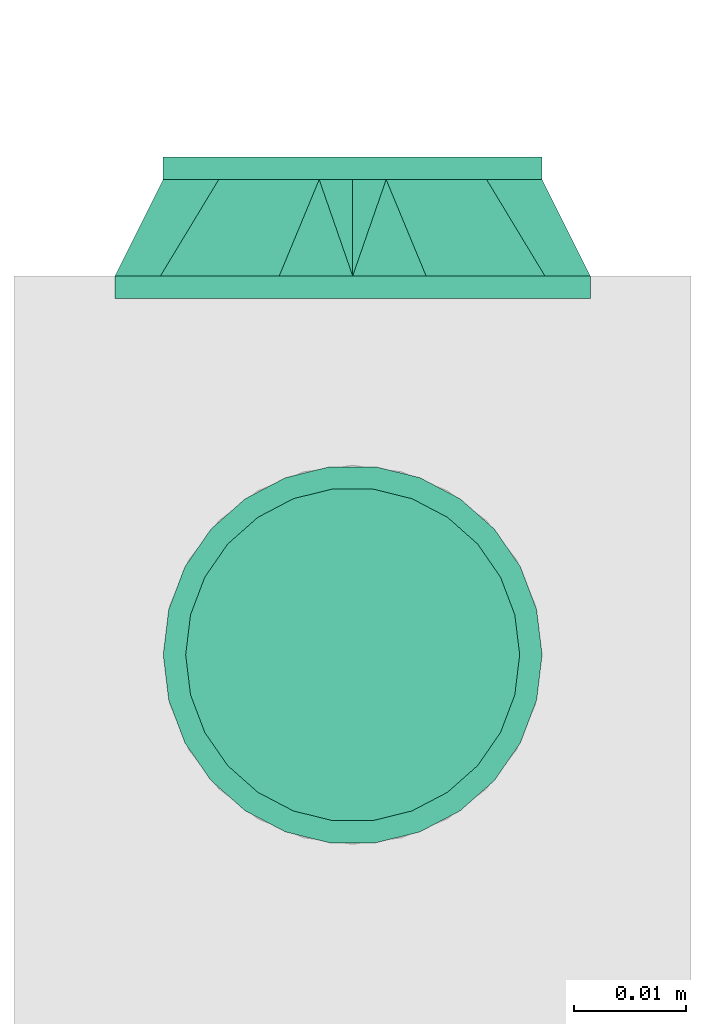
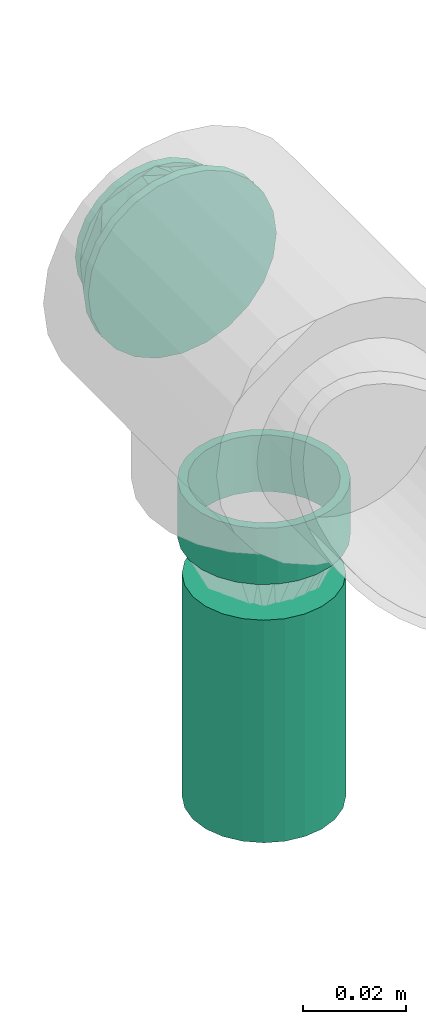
# One storey, part 10 of 17: 1 flow fitting, 1 flow segment, 1 flow terminal.
"""IFC2X3 building model written with IfcOpenShell, lengths in millimetres."""

from ifc_helpers import new_model, entity, si_unit, converted_unit, derived_unit, direction, frame, origin_with_axes, origin_2d_with_axis, place, context, subcontext, project, spatial, hollow_circle, extrude, open_shell, surface_model, source, transform, mapped, type_object, element, save


model = new_model("IFC2X3")

# Units and contexts
model_context = context("Model", 3, precision=0.01, world=frame((0.0, 4.29681676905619e-09, 0.0)), true_north=direction((4.01073788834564e-13, 1.0)))
plan_context = context("Plan", 3, precision=0.01, world=frame((0.0, 4.29681676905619e-09, 0.0)), true_north=direction((4.01073788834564e-13, 1.0)))
body_context = subcontext(model_context, "Body", "Model", "MODEL_VIEW")
ifc_project = project(units=[converted_unit("PLANEANGLEUNIT", "DEGREE", entity("IfcPositiveLengthMeasure", 0.0174532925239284), si_unit("PLANEANGLEUNIT", "RADIAN"), dimensions=[0, 0, 0, 0, 0, 0, 0]), si_unit("AREAUNIT", "SQUARE_METRE"), si_unit("LENGTHUNIT", "METRE", prefix="MILLI"), si_unit("MASSUNIT", "GRAM", prefix="KILO"), si_unit("POWERUNIT", "WATT"), si_unit("PRESSUREUNIT", "PASCAL"), si_unit("FORCEUNIT", "NEWTON", prefix="KILO"), si_unit("ELECTRICVOLTAGEUNIT", "VOLT"), si_unit("ELECTRICCURRENTUNIT", "AMPERE"), si_unit("THERMODYNAMICTEMPERATUREUNIT", "DEGREE_CELSIUS"), si_unit("TIMEUNIT", "SECOND"), si_unit("VOLUMEUNIT", "CUBIC_METRE"), derived_unit("LINEARVELOCITYUNIT", [(si_unit("LENGTHUNIT", "METRE"), 1), (si_unit("TIMEUNIT", "SECOND"), -1)]), derived_unit("VOLUMETRICFLOWRATEUNIT", [(si_unit("VOLUMEUNIT", "CUBIC_METRE"), 1), (si_unit("TIMEUNIT", "SECOND"), -1)]), derived_unit("THERMALTRANSMITTANCEUNIT", [(si_unit("POWERUNIT", "WATT"), 1), (si_unit("THERMODYNAMICTEMPERATUREUNIT", "KELVIN"), -1), (si_unit("AREAUNIT", "SQUARE_METRE"), -1)]), derived_unit("SOUNDPRESSUREUNIT", [(si_unit("PRESSUREUNIT", "PASCAL"), 1)])], contexts=[model_context, plan_context])

# Site, building, storey
site_placement = place(None, frame((0.0, -4.29681676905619e-09, 0.0), z_axis=(0.0, 0.0, 1.0), x_axis=(1.0, 0.0, 0.0)))
site = spatial("IfcSite", under=ifc_project, at=site_placement, Name="ENGM", CompositionType="ELEMENT")
building_placement = place(site_placement, frame((0.0, 4.29681676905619e-09, 0.0), z_axis=(0.0, 0.0, 1.0), x_axis=(1.0, 0.0, 0.0)))
building = spatial("IfcBuilding", under=site, at=building_placement, Name="TH", CompositionType="ELEMENT")
storey_placement = place(building_placement, frame((0.0, 0.0, 205200.0), z_axis=(0.0, 0.0, 1.0), x_axis=(1.0, 0.0, 0.0)))
storey = spatial("IfcBuildingStorey", under=building, at=storey_placement, Name="Nivå D + 1,2 m", CompositionType="ELEMENT", Elevation=205200.0)

# Flow fitting
pipe_fitting_type = type_object("IfcPipeFittingType", Name="magi_pipe_fe_reducer_centric_short_NOR", PredefinedType="TRANSITION")
shared_shape_1 = source(origin_with_axes(), body_context, "Body", "SurfaceModel", [
    surface_model("IfcShellBasedSurfaceModel", [(10.6, 4.37404, -16.32415), (10.6, 8.45, -14.63583), (10.6, 11.9501, -11.9501), (10.6, -8.45, -14.63583), (10.6, 16.32415, -4.37404), (10.6, 16.32415, 4.37404), (10.6, 14.63583, -8.45), (10.6, 0.0, -16.9), (10.6, -4.37404, -16.32415), (10.6, -11.9501, -11.9501), (10.6, -16.32415, -4.37404), (10.6, -14.63583, -8.45), (10.6, -16.32415, 4.37404), (10.6, 16.9, 0.0), (10.6, 14.63583, 8.45), (10.6, 11.9501, 11.9501), (10.6, 4.37404, 16.32415), (10.6, 8.45, 14.63583), (10.6, 0.0, 16.9), (10.6, -14.63583, 8.45), (10.6, -16.9, 0.0), (10.6, -8.45, 14.63583), (10.6, -11.9501, 11.9501), (10.6, -4.37404, 16.32415), (8.6, 4.37404, 16.32415), (8.6, -14.63583, 8.45), (8.6, 0.0, 16.9), (8.6, 16.32415, 4.37404), (8.6, 8.45, 14.63583), (8.6, 11.9501, 11.9501), (8.6, 14.63583, 8.45), (8.6, -8.45, 14.63583), (8.6, -11.9501, 11.9501), (8.6, -4.37404, 16.32415), (8.6, -16.32415, 4.37404), (8.6, -16.32415, -4.37404), (8.6, -16.9, 0.0), (8.6, -8.45, -14.63583), (8.6, 16.32415, -4.37404), (8.6, 11.9501, -11.9501), (8.6, 14.63583, -8.45), (8.6, 8.45, -14.63583), (8.6, 4.37404, -16.32415), (8.6, 0.0, -16.9), (8.6, -11.9501, -11.9501), (8.6, -14.63583, -8.45), (8.6, -4.37404, -16.32415), (8.6, 16.9, 0.0), (-2.0, 0.0, 21.2), (-2.0, 5.48696, 20.47763), (-2.0, 10.6, 18.35974), (-2.0, 14.99066, 14.99066), (-2.0, 18.35974, 10.6), (-2.0, 20.47763, 5.48696), (-2.0, -21.2, 0.0), (-2.0, -14.99066, -14.99066), (-2.0, -5.48696, 20.47763), (-2.0, -14.99066, 14.99066), (-2.0, -10.6, 18.35974), (-2.0, -18.35974, 10.6), (-2.0, -20.47763, 5.48696), (-2.0, 20.47763, -5.48696), (-2.0, 10.6, -18.35974), (-2.0, 14.99066, -14.99066), (-2.0, 18.35974, -10.6), (-2.0, 5.48696, -20.47763), (-2.0, 0.0, -21.2), (-2.0, -18.35974, -10.6), (-2.0, -20.47763, -5.48696), (-2.0, -10.6, -18.35974), (-2.0, -5.48696, -20.47763), (-2.0, 21.2, 0.0), (0.0, 10.6, -18.35974), (0.0, 0.0, -21.2), (0.0, 5.48696, -20.47763), (0.0, 20.47763, -5.48696), (0.0, 14.99066, -14.99066), (0.0, -21.2, 0.0), (0.0, -14.99066, -14.99066), (0.0, 18.35974, -10.6), (0.0, -10.6, -18.35974), (0.0, -5.48696, -20.47763), (0.0, -18.35974, -10.6), (0.0, -20.47763, -5.48696), (0.0, -18.35974, 10.6), (0.0, 21.2, 0.0), (0.0, 20.47763, 5.48696), (0.0, 18.35974, 10.6), (0.0, 14.99066, 14.99066), (0.0, 0.0, 21.2), (0.0, 10.6, 18.35974), (0.0, 5.48696, 20.47763), (0.0, -14.99066, 14.99066), (0.0, -20.47763, 5.48696), (0.0, -5.48696, 20.47763), (0.0, -10.6, 18.35974), (0.0, 6.55116, 20.1624), (0.0, 17.15116, 12.46105), (0.0, -17.15116, 12.46105), (0.0, -6.55116, 20.1624), (0.0, 6.55116, -20.1624), (0.0, 17.15116, -12.46105), (0.0, -6.55116, -20.1624), (0.0, -17.15116, -12.46105), (8.6, -13.18758, -8.96258), (0.0, 11.85116, -16.31172), (0.0, 14.50116, -14.38638), (8.6, -14.42505, -5.97505), (0.0, -19.17558, -6.23052), (0.0, -18.16337, -9.34579), (8.6, 5.97505, -14.42505), (8.6, 14.42505, -5.97505), (0.0, 19.17558, -6.23052), (0.0, 0.0, -20.1624), (8.6, 2.98753, -15.66253), (8.6, 13.18758, -8.96258), (8.6, -2.98753, -15.66253), (8.6, 15.66253, -2.98753), (8.6, -15.66253, -2.98753), (0.0, -11.85116, -16.31172), (8.6, -5.97505, -14.42505), (8.6, -8.96258, -13.18758), (8.6, 8.96258, -13.18758), (8.6, 13.18758, 8.96258), (0.0, -11.85116, 16.31172), (0.0, -14.50116, 14.38638), (8.6, 14.42505, 5.97505), (0.0, 19.17558, 6.23052), (0.0, 18.16337, 9.34579), (8.6, -5.97505, 14.42505), (8.6, -14.42505, 5.97505), (0.0, -19.17558, 6.23052), (0.0, 0.0, 20.1624), (8.6, -2.98753, 15.66253), (8.6, -13.18758, 8.96258), (8.6, 2.98753, 15.66253), (8.6, -15.66253, 2.98753), (8.6, 15.66253, 2.98753), (0.0, 11.85116, 16.31172), (8.6, 5.97505, 14.42505), (8.6, 8.96258, 13.18758), (8.6, -8.96258, 13.18758)], [open_shell([[[0, 1, 2]], [[3, 0, 2]], [[2, 4, 5]], [[4, 2, 6]], [[2, 5, 3]], [[7, 3, 8]], [[7, 0, 3]], [[9, 10, 11]], [[10, 9, 3]], [[3, 12, 10]], [[5, 4, 13]], [[5, 14, 15]], [[5, 15, 16]], [[16, 12, 3]], [[16, 15, 17]], [[12, 16, 18]], [[18, 19, 12]], [[20, 10, 12]], [[19, 21, 22]], [[19, 18, 21]], [[21, 18, 23]], [[3, 5, 16]], [[24, 25, 26]], [[27, 24, 28]], [[29, 30, 27]], [[29, 27, 28]], [[25, 24, 27]], [[31, 25, 32]], [[31, 33, 26]], [[26, 25, 31]], [[34, 25, 27]], [[34, 35, 36]], [[34, 27, 37]], [[27, 38, 39]], [[39, 38, 40]], [[39, 41, 42]], [[37, 27, 39]], [[42, 43, 39]], [[35, 44, 45]], [[44, 35, 37]], [[37, 43, 46]], [[35, 34, 37]], [[39, 43, 37]], [[38, 27, 47]], [[35, 10, 36]], [[45, 11, 35]], [[3, 44, 37]], [[45, 44, 9]], [[8, 37, 46]], [[35, 11, 10]], [[10, 20, 36]], [[8, 3, 37]], [[9, 44, 3]], [[9, 11, 45]], [[7, 8, 46]], [[46, 43, 7]], [[42, 0, 43]], [[41, 1, 42]], [[6, 39, 40]], [[41, 39, 2]], [[4, 40, 38]], [[41, 2, 1]], [[1, 0, 42]], [[13, 4, 38]], [[6, 40, 4]], [[6, 2, 39]], [[47, 13, 38]], [[43, 0, 7]], [[27, 5, 47]], [[30, 14, 27]], [[17, 29, 28]], [[30, 29, 15]], [[16, 28, 24]], [[27, 14, 5]], [[5, 13, 47]], [[16, 17, 28]], [[15, 29, 17]], [[15, 14, 30]], [[18, 16, 24]], [[24, 26, 18]], [[33, 23, 26]], [[31, 21, 33]], [[19, 32, 25]], [[31, 32, 22]], [[12, 25, 34]], [[31, 22, 21]], [[21, 23, 33]], [[20, 12, 34]], [[19, 25, 12]], [[19, 22, 32]], [[36, 20, 34]], [[26, 23, 18]], [[48, 49, 50]], [[48, 50, 51]], [[51, 52, 53]], [[51, 53, 48]], [[54, 48, 55]], [[56, 57, 58]], [[56, 48, 57]], [[59, 54, 60]], [[57, 48, 59]], [[48, 54, 59]], [[48, 53, 55]], [[53, 61, 62]], [[63, 61, 64]], [[55, 53, 62]], [[62, 61, 63]], [[65, 66, 62]], [[54, 67, 68]], [[55, 67, 54]], [[69, 66, 70]], [[69, 55, 62]], [[66, 69, 62]], [[61, 53, 71]], [[72, 73, 74]], [[75, 72, 76]], [[77, 78, 72]], [[75, 76, 79]], [[75, 77, 72]], [[73, 80, 81]], [[73, 72, 80]], [[82, 77, 83]], [[80, 72, 78]], [[82, 78, 77]], [[84, 75, 85]], [[86, 87, 88]], [[86, 88, 89]], [[90, 91, 89]], [[90, 89, 88]], [[86, 89, 92]], [[77, 84, 93]], [[75, 84, 77]], [[92, 94, 95]], [[84, 86, 92]], [[89, 94, 92]], [[84, 85, 86]], [[68, 83, 54]], [[67, 82, 68]], [[80, 55, 69]], [[67, 55, 78]], [[81, 69, 70]], [[68, 82, 83]], [[83, 77, 54]], [[81, 80, 69]], [[78, 55, 80]], [[78, 82, 67]], [[73, 81, 70]], [[70, 66, 73]], [[65, 74, 66]], [[62, 72, 65]], [[79, 63, 64]], [[62, 63, 76]], [[75, 64, 61]], [[62, 76, 72]], [[72, 74, 65]], [[85, 75, 61]], [[79, 64, 75]], [[79, 76, 63]], [[71, 85, 61]], [[66, 74, 73]], [[53, 86, 71]], [[52, 87, 53]], [[90, 51, 50]], [[52, 51, 88]], [[91, 50, 49]], [[53, 87, 86]], [[86, 85, 71]], [[91, 90, 50]], [[88, 51, 90]], [[88, 87, 52]], [[89, 91, 49]], [[49, 48, 89]], [[56, 94, 48]], [[58, 95, 56]], [[84, 57, 59]], [[58, 57, 92]], [[93, 59, 60]], [[58, 92, 95]], [[95, 94, 56]], [[77, 93, 60]], [[84, 59, 93]], [[84, 92, 57]], [[54, 77, 60]], [[48, 94, 89]], [[26, 32, 29]], [[47, 29, 32]], [[32, 43, 47]], [[43, 32, 44]], [[39, 47, 43]], [[44, 32, 36]], [[96, 97, 98]], [[96, 98, 99]], [[98, 97, 77]], [[97, 100, 77]], [[100, 97, 101]], [[77, 102, 103]], [[77, 100, 102]], [[101, 97, 85]], [[103, 44, 104]], [[39, 105, 106]], [[107, 108, 109]], [[105, 110, 100]], [[39, 106, 101]], [[111, 101, 112]], [[113, 114, 43]], [[101, 111, 115]], [[113, 116, 102]], [[85, 117, 112]], [[77, 118, 36]], [[44, 103, 119]], [[119, 120, 121]], [[77, 108, 118]], [[116, 113, 43]], [[100, 110, 114]], [[116, 120, 102]], [[100, 114, 113]], [[122, 110, 105]], [[117, 85, 47]], [[107, 118, 108]], [[103, 104, 109]], [[104, 107, 109]], [[39, 101, 115]], [[120, 119, 102]], [[121, 44, 119]], [[117, 111, 112]], [[105, 39, 122]], [[97, 29, 123]], [[32, 124, 125]], [[126, 127, 128]], [[124, 129, 99]], [[32, 125, 98]], [[130, 98, 131]], [[132, 133, 26]], [[98, 130, 134]], [[132, 135, 96]], [[77, 136, 131]], [[85, 137, 47]], [[29, 97, 138]], [[138, 139, 140]], [[85, 127, 137]], [[135, 132, 26]], [[99, 129, 133]], [[135, 139, 96]], [[99, 133, 132]], [[141, 129, 124]], [[136, 77, 36]], [[126, 137, 127]], [[97, 123, 128]], [[123, 126, 128]], [[32, 98, 134]], [[139, 138, 96]], [[140, 29, 138]], [[136, 130, 131]], [[124, 32, 141]]])]),
])
flow_fitting_placement = place(storey_placement, frame((908433.37511, 478688.72479, 4432.21101), z_axis=(0.0, 0.0, 1.0), x_axis=(0.0, 1.0, 0.0)))
element("IfcFlowFitting", 1, at=flow_fitting_placement, inside=storey, type_object=pipe_fitting_type, Name="magi_pipe_fe_reducer_centric_short_NOR", context=body_context, shape_type="MappedRepresentation", body=[
    mapped(shared_shape_1, transform((0.0, 0.0, 0.0), scale=1.0)),
])

# Flow segment
pipe_segment_type = type_object("IfcPipeSegmentType", Name="Stålrør normaltykke", PredefinedType="RIGIDSEGMENT")
shared_shape_2 = source(origin_with_axes(), body_context, "Body", "SweptSolid", [
    extrude(hollow_circle(Radius=16.9, WallThickness=2.0, at=origin_2d_with_axis()), frame((0.0, 0.0, 0.0), z_axis=(1.0, 0.0, 0.0), x_axis=(0.0, 1.0, 0.0)), (0.0, 0.0, 1.0), 13.4),
])
flow_segment_placement = place(storey_placement, frame((908433.37511, 478654.92479, 4400.41101000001), z_axis=(0.0, -1.0, 0.0), x_axis=(0.0, 0.0, -1.0)))
element("IfcFlowSegment", 2, at=flow_segment_placement, inside=storey, type_object=pipe_segment_type, Name="Stålrør normaltykke", context=body_context, shape_type="MappedRepresentation", body=[
    mapped(shared_shape_2, transform((0.0, 0.0, 0.0), scale=1.0)),
])

# Flow terminal
fire_suppression_terminal_type = type_object("IfcFireSuppressionTerminalType", Name="SP-15-K80-68DGR-STD-NEDOVER", PredefinedType="NOTDEFINED")
shared_shape_3 = source(origin_with_axes(), body_context, "Body", "SurfaceModel", [
    surface_model("IfcShellBasedSurfaceModel", [(4.1411, -15.45481, 53.0), (8.0, -13.85641, 53.0), (11.31371, -11.31371, 53.0), (-8.0, -13.85641, 53.0), (15.45481, -4.1411, 53.0), (16.0, 0.0, 53.0), (13.85641, -8.0, 53.0), (0.0, -16.0, 53.0), (-4.1411, -15.45481, 53.0), (-13.85641, -8.0, 53.0), (-11.31371, -11.31371, 53.0), (-15.45481, -4.1411, 53.0), (15.45481, 4.1411, 53.0), (13.85641, 8.0, 53.0), (11.31371, 11.31371, 53.0), (-4.1411, 15.45481, 53.0), (8.0, 13.85641, 53.0), (4.1411, 15.45481, 53.0), (0.0, 16.0, 53.0), (-13.85641, 8.0, 53.0), (-15.45481, 4.1411, 53.0), (-16.0, 0.0, 53.0), (-11.31371, 11.31371, 53.0), (-8.0, 13.85641, 53.0), (0.0, 16.0, 0.0), (4.1411, 15.45481, 0.0), (8.0, 13.85641, 0.0), (-4.1411, 15.45481, 0.0), (11.31371, 11.31371, 0.0), (13.85641, 8.0, 0.0), (15.45481, 4.1411, 0.0), (-15.45481, -4.1411, 0.0), (-11.31371, 11.31371, 0.0), (-8.0, 13.85641, 0.0), (-13.85641, 8.0, 0.0), (-15.45481, 4.1411, 0.0), (-16.0, 0.0, 0.0), (4.1411, -15.45481, 0.0), (16.0, 0.0, 0.0), (15.45481, -4.1411, 0.0), (13.85641, -8.0, 0.0), (11.31371, -11.31371, 0.0), (8.0, -13.85641, 0.0), (-8.0, -13.85641, 0.0), (-13.85641, -8.0, 0.0), (-11.31371, -11.31371, 0.0), (0.0, -16.0, 0.0), (-4.1411, -15.45481, 0.0)], [open_shell([[[0, 1, 2]], [[3, 0, 2]], [[4, 5, 2]], [[4, 2, 6]], [[3, 2, 5]], [[7, 3, 8]], [[7, 0, 3]], [[3, 9, 10]], [[9, 3, 11]], [[5, 11, 3]], [[5, 12, 11]], [[12, 13, 14]], [[15, 12, 14]], [[16, 17, 18]], [[14, 16, 15]], [[18, 15, 16]], [[11, 19, 20]], [[21, 11, 20]], [[22, 15, 23]], [[15, 22, 19]], [[19, 11, 15]], [[11, 12, 15]], [[24, 25, 26]], [[27, 24, 26]], [[28, 29, 30]], [[27, 26, 28]], [[27, 28, 31]], [[27, 32, 33]], [[32, 27, 34]], [[34, 31, 35]], [[31, 34, 27]], [[35, 31, 36]], [[28, 30, 31]], [[37, 38, 39]], [[37, 39, 40]], [[41, 42, 37]], [[41, 37, 40]], [[38, 37, 43]], [[44, 43, 45]], [[43, 44, 31]], [[43, 46, 47]], [[43, 31, 38]], [[37, 46, 43]], [[38, 31, 30]], [[11, 31, 44]], [[45, 9, 44]], [[3, 43, 47]], [[45, 43, 10]], [[8, 47, 46]], [[31, 21, 36]], [[31, 11, 21]], [[44, 9, 11]], [[45, 10, 9]], [[3, 10, 43]], [[47, 8, 3]], [[46, 7, 8]], [[0, 37, 42]], [[41, 1, 42]], [[6, 40, 39]], [[41, 40, 2]], [[4, 39, 38]], [[37, 0, 7]], [[42, 1, 0]], [[41, 2, 1]], [[40, 6, 2]], [[4, 6, 39]], [[38, 5, 4]], [[37, 7, 46]], [[12, 38, 30]], [[13, 30, 29]], [[16, 26, 25]], [[17, 25, 24]], [[30, 13, 12]], [[12, 5, 38]], [[28, 14, 13]], [[28, 26, 14]], [[14, 26, 16]], [[25, 17, 16]], [[28, 13, 29]], [[24, 18, 17]], [[15, 27, 33]], [[32, 23, 33]], [[19, 34, 35]], [[32, 34, 22]], [[20, 35, 36]], [[27, 15, 18]], [[33, 23, 15]], [[32, 22, 23]], [[34, 19, 22]], [[20, 19, 35]], [[36, 21, 20]], [[27, 18, 24]]])]),
])
flow_terminal_placement = place(storey_placement, frame((908433.37511, 478654.92479, 4377.91136999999), z_axis=(0.0, 0.0, -1.0), x_axis=(-0.999999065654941, 0.00136700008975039, 0.0)))
element("IfcFlowTerminal", 3, at=flow_terminal_placement, inside=storey, type_object=fire_suppression_terminal_type, Name="SP-15-K80-68DGR-STD-NEDOVER", context=body_context, shape_type="MappedRepresentation", body=[
    mapped(shared_shape_3, transform((0.0, 0.0, 0.0), scale=1.0)),
])

save(model, "model.ifc")
